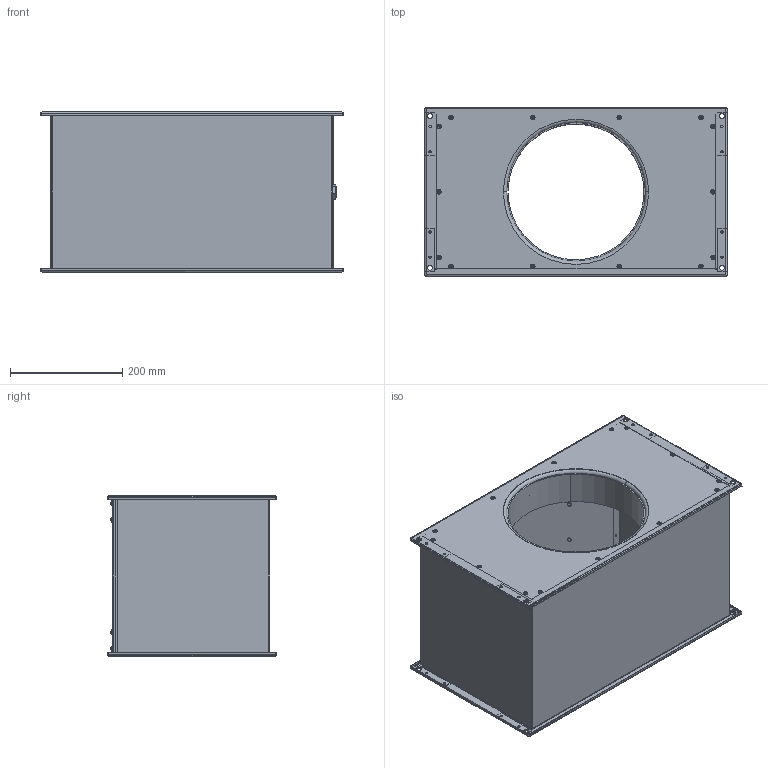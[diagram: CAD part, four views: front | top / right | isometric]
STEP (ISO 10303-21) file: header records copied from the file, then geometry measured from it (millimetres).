
FILE_DESCRIPTION (( 'STEP AP203' ), '1' );
FILE_NAME ('136741-00_EMKI5025EC20.STEP', '2016-04-20T04:51:32', ( '' ), ( '' ), 'SwSTEP 2.0', 'SolidWorks 2012', '' );
FILE_SCHEMA (( 'CONFIG_CONTROL_DESIGN' ));
Length unit declared in the file: millimetre
Products named in the file (1): 136741-00_EMKI5025EC20
Bounding box: 538 x 300 x 287.6 mm (x, y, z)
Surface area: 1526381.9 mm2 (no closed solid volume)
Topology: 0 solids, 87 shells, 511 faces, 1688 edges, 1228 vertices
Faces by surface type: cylinder 254, plane 169, torus 76, bspline 8, cone 4
Entity records: 19803 total; most frequent: CARTESIAN_POINT 4794, DIRECTION 3400, ORIENTED_EDGE 2452, EDGE_CURVE 1684, AXIS2_PLACEMENT_3D 1374, VERTEX_POINT 1228, CIRCLE 870, EDGE_LOOP 673
